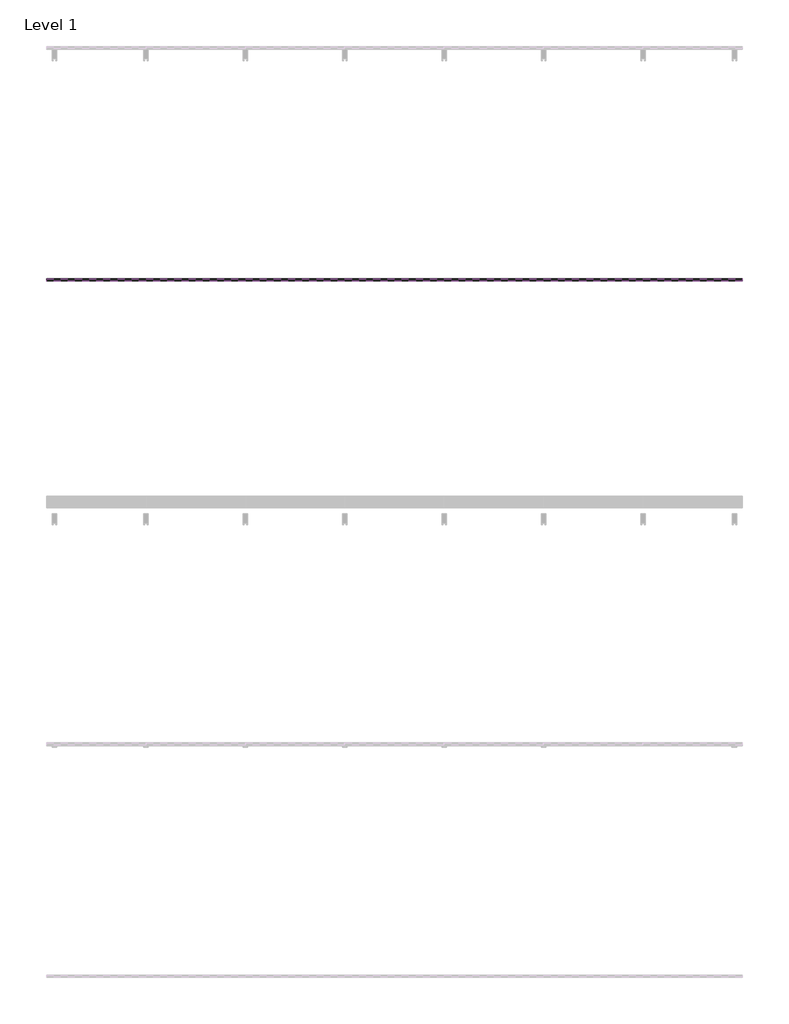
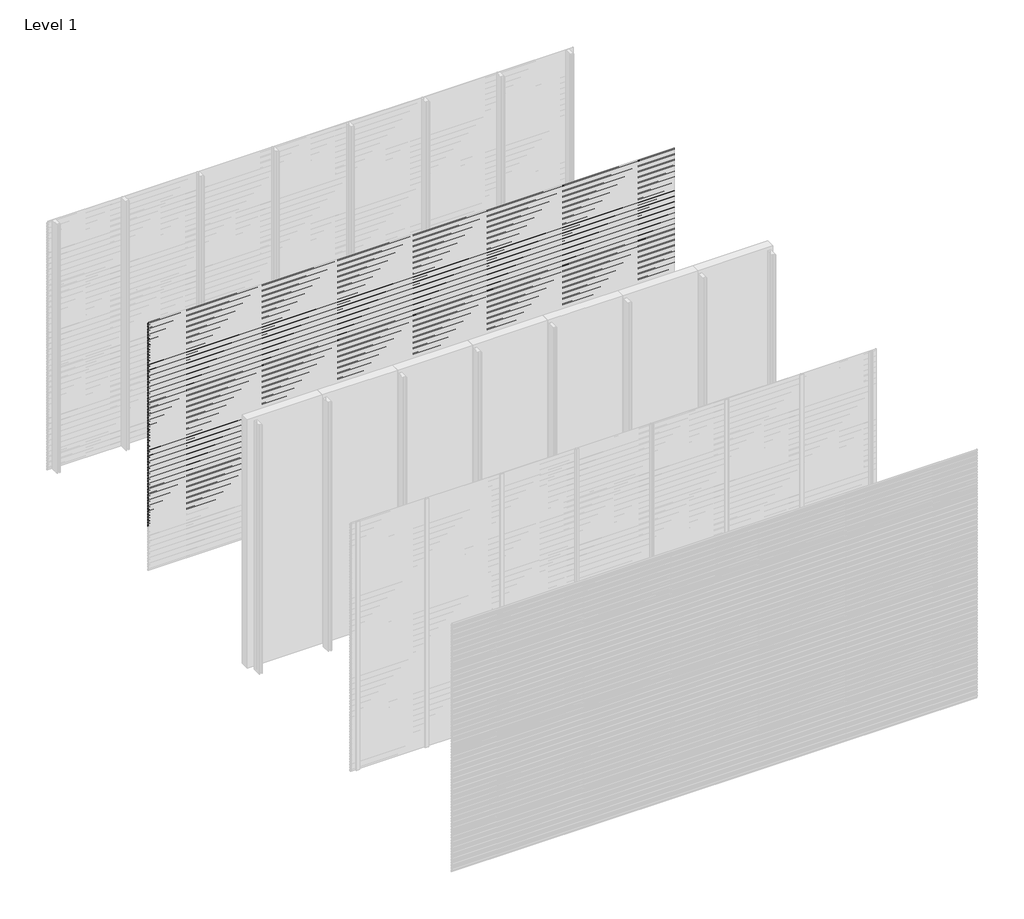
# One storey, part 60 of 96: 77 proxies.
"""IFC4 building model written with IfcOpenShell, lengths in millimetres."""

from ifc_helpers import new_model, si_unit, frame, origin, place, context, project, spatial, polyline, outline, extrude, element, save

model = new_model("IFC4")

# Units and contexts
model_context = context("Model", 3, world=origin())
ifc_project = project(units=[si_unit("LENGTHUNIT", "METRE", prefix="MILLI")], contexts=[model_context])

# Site, building, storey
site = spatial("IfcSite", under=ifc_project)
building = spatial("IfcBuilding", under=site)
storey = spatial("IfcBuildingStorey", under=building, Name="Level 1", Elevation=0.0)

# Proxies
placement = place(None, origin())
element("IfcBuildingElementProxy", 1, Name="Wall Sweeps", at=placement, inside=storey, context=model_context, shape_type="SweptSolid", body=[
    extrude(outline(polyline([(-19977.6, 2971.7655033), (-19977.6, 2957.4779188), (-19982.4114965, 2954.7), (-19982.4114965, 2955.9701706), (-19978.85, 2958.0264016), (-19978.85, 2971.0437382), (-19998.0, 2982.1000799), (-19998.0, 2997.0), (-19996.75, 2997.0), (-19996.75, 2982.8217609), (-19977.6, 2971.7655033)])), frame((0.0, 0.0, 0.0), z_axis=(1.0, 0.0, 0.0), x_axis=(0.0, 1.0, 0.0)), (0.0, 0.0, 1.0), 6000.0),
])
element("IfcBuildingElementProxy", 2, Name="Wall Sweeps", at=placement, inside=storey, context=model_context, shape_type="SweptSolid", body=[
    extrude(outline(polyline([(-19977.6, 2938.4655033), (-19977.6, 2924.1779188), (-19982.4114965, 2921.4), (-19982.4114965, 2922.6701706), (-19978.85, 2924.7264016), (-19978.85, 2937.7437382), (-19998.0, 2948.8000799), (-19998.0, 2963.7), (-19996.75, 2963.7), (-19996.75, 2949.5217609), (-19977.6, 2938.4655033)])), frame((0.0, 0.0, 0.0), z_axis=(1.0, 0.0, 0.0), x_axis=(0.0, 1.0, 0.0)), (0.0, 0.0, 1.0), 6000.0),
])
element("IfcBuildingElementProxy", 3, Name="Wall Sweeps", at=placement, inside=storey, context=model_context, shape_type="SweptSolid", body=[
    extrude(outline(polyline([(-19977.6, 2905.1655033), (-19977.6, 2890.8779188), (-19982.4114965, 2888.1), (-19982.4114965, 2889.3701706), (-19978.85, 2891.4264016), (-19978.85, 2904.4437382), (-19998.0, 2915.5000799), (-19998.0, 2930.4), (-19996.75, 2930.4), (-19996.75, 2916.2217609), (-19977.6, 2905.1655033)])), frame((0.0, 0.0, 0.0), z_axis=(1.0, 0.0, 0.0), x_axis=(0.0, 1.0, 0.0)), (0.0, 0.0, 1.0), 6000.0),
])
element("IfcBuildingElementProxy", 4, Name="Wall Sweeps", at=placement, inside=storey, context=model_context, shape_type="SweptSolid", body=[
    extrude(outline(polyline([(-19977.6, 2871.8655033), (-19977.6, 2857.5779188), (-19982.4114965, 2854.8), (-19982.4114965, 2856.0701706), (-19978.85, 2858.1264016), (-19978.85, 2871.1437382), (-19998.0, 2882.2000799), (-19998.0, 2897.1), (-19996.75, 2897.1), (-19996.75, 2882.9217609), (-19977.6, 2871.8655033)])), frame((0.0, 0.0, 0.0), z_axis=(1.0, 0.0, 0.0), x_axis=(0.0, 1.0, 0.0)), (0.0, 0.0, 1.0), 6000.0),
])
element("IfcBuildingElementProxy", 5, Name="Wall Sweeps", at=placement, inside=storey, context=model_context, shape_type="SweptSolid", body=[
    extrude(outline(polyline([(-19977.6, 2838.5655033), (-19977.6, 2824.2779188), (-19982.4114965, 2821.5), (-19982.4114965, 2822.7701706), (-19978.85, 2824.8264016), (-19978.85, 2837.8437382), (-19998.0, 2848.9000799), (-19998.0, 2863.8), (-19996.75, 2863.8), (-19996.75, 2849.6217609), (-19977.6, 2838.5655033)])), frame((0.0, 0.0, 0.0), z_axis=(1.0, 0.0, 0.0), x_axis=(0.0, 1.0, 0.0)), (0.0, 0.0, 1.0), 6000.0),
])
element("IfcBuildingElementProxy", 6, Name="Wall Sweeps", at=placement, inside=storey, context=model_context, shape_type="SweptSolid", body=[
    extrude(outline(polyline([(-19977.6, 2805.2655033), (-19977.6, 2790.9779188), (-19982.4114965, 2788.2), (-19982.4114965, 2789.4701706), (-19978.85, 2791.5264016), (-19978.85, 2804.5437382), (-19998.0, 2815.6000799), (-19998.0, 2830.5), (-19996.75, 2830.5), (-19996.75, 2816.3217609), (-19977.6, 2805.2655033)])), frame((0.0, 0.0, 0.0), z_axis=(1.0, 0.0, 0.0), x_axis=(0.0, 1.0, 0.0)), (0.0, 0.0, 1.0), 6000.0),
])
element("IfcBuildingElementProxy", 7, Name="Wall Sweeps", at=placement, inside=storey, context=model_context, shape_type="SweptSolid", body=[
    extrude(outline(polyline([(-19977.6, 2771.9655033), (-19977.6, 2757.6779188), (-19982.4114965, 2754.9), (-19982.4114965, 2756.1701706), (-19978.85, 2758.2264016), (-19978.85, 2771.2437382), (-19998.0, 2782.3000799), (-19998.0, 2797.2), (-19996.75, 2797.2), (-19996.75, 2783.0217609), (-19977.6, 2771.9655033)])), frame((0.0, 0.0, 0.0), z_axis=(1.0, 0.0, 0.0), x_axis=(0.0, 1.0, 0.0)), (0.0, 0.0, 1.0), 6000.0),
])
element("IfcBuildingElementProxy", 8, Name="Wall Sweeps", at=placement, inside=storey, context=model_context, shape_type="SweptSolid", body=[
    extrude(outline(polyline([(-19977.6, 2738.6655033), (-19977.6, 2724.3779188), (-19982.4114965, 2721.6), (-19982.4114965, 2722.8701706), (-19978.85, 2724.9264016), (-19978.85, 2737.9437382), (-19998.0, 2749.0000799), (-19998.0, 2763.9), (-19996.75, 2763.9), (-19996.75, 2749.7217609), (-19977.6, 2738.6655033)])), frame((0.0, 0.0, 0.0), z_axis=(1.0, 0.0, 0.0), x_axis=(0.0, 1.0, 0.0)), (0.0, 0.0, 1.0), 6000.0),
])
element("IfcBuildingElementProxy", 9, Name="Wall Sweeps", at=placement, inside=storey, context=model_context, shape_type="SweptSolid", body=[
    extrude(outline(polyline([(-19977.6, 2705.3655033), (-19977.6, 2691.0779188), (-19982.4114965, 2688.3), (-19982.4114965, 2689.5701706), (-19978.85, 2691.6264016), (-19978.85, 2704.6437382), (-19998.0, 2715.7000799), (-19998.0, 2730.6), (-19996.75, 2730.6), (-19996.75, 2716.4217609), (-19977.6, 2705.3655033)])), frame((0.0, 0.0, 0.0), z_axis=(1.0, 0.0, 0.0), x_axis=(0.0, 1.0, 0.0)), (0.0, 0.0, 1.0), 6000.0),
])
element("IfcBuildingElementProxy", 10, Name="Wall Sweeps", at=placement, inside=storey, context=model_context, shape_type="SweptSolid", body=[
    extrude(outline(polyline([(-19977.6, 2672.0655033), (-19977.6, 2657.7779188), (-19982.4114965, 2655.0), (-19982.4114965, 2656.2701706), (-19978.85, 2658.3264016), (-19978.85, 2671.3437382), (-19998.0, 2682.4000799), (-19998.0, 2697.3), (-19996.75, 2697.3), (-19996.75, 2683.1217609), (-19977.6, 2672.0655033)])), frame((0.0, 0.0, 0.0), z_axis=(1.0, 0.0, 0.0), x_axis=(0.0, 1.0, 0.0)), (0.0, 0.0, 1.0), 6000.0),
])
element("IfcBuildingElementProxy", 11, Name="Wall Sweeps", at=placement, inside=storey, context=model_context, shape_type="SweptSolid", body=[
    extrude(outline(polyline([(-19977.6, 2638.7655033), (-19977.6, 2624.4779188), (-19982.4114965, 2621.7), (-19982.4114965, 2622.9701706), (-19978.85, 2625.0264016), (-19978.85, 2638.0437382), (-19998.0, 2649.1000799), (-19998.0, 2664.0), (-19996.75, 2664.0), (-19996.75, 2649.8217609), (-19977.6, 2638.7655033)])), frame((0.0, 0.0, 0.0), z_axis=(1.0, 0.0, 0.0), x_axis=(0.0, 1.0, 0.0)), (0.0, 0.0, 1.0), 6000.0),
])
element("IfcBuildingElementProxy", 12, Name="Wall Sweeps", at=placement, inside=storey, context=model_context, shape_type="SweptSolid", body=[
    extrude(outline(polyline([(-19977.6, 2605.4655033), (-19977.6, 2591.1779188), (-19982.4114965, 2588.4), (-19982.4114965, 2589.6701706), (-19978.85, 2591.7264016), (-19978.85, 2604.7437382), (-19998.0, 2615.8000799), (-19998.0, 2630.7), (-19996.75, 2630.7), (-19996.75, 2616.5217609), (-19977.6, 2605.4655033)])), frame((0.0, 0.0, 0.0), z_axis=(1.0, 0.0, 0.0), x_axis=(0.0, 1.0, 0.0)), (0.0, 0.0, 1.0), 6000.0),
])
element("IfcBuildingElementProxy", 13, Name="Wall Sweeps", at=placement, inside=storey, context=model_context, shape_type="SweptSolid", body=[
    extrude(outline(polyline([(-19977.6, 2572.1655033), (-19977.6, 2557.8779188), (-19982.4114965, 2555.1), (-19982.4114965, 2556.3701706), (-19978.85, 2558.4264016), (-19978.85, 2571.4437382), (-19998.0, 2582.5000799), (-19998.0, 2597.4), (-19996.75, 2597.4), (-19996.75, 2583.2217609), (-19977.6, 2572.1655033)])), frame((0.0, 0.0, 0.0), z_axis=(1.0, 0.0, 0.0), x_axis=(0.0, 1.0, 0.0)), (0.0, 0.0, 1.0), 6000.0),
])
element("IfcBuildingElementProxy", 14, Name="Wall Sweeps", at=placement, inside=storey, context=model_context, shape_type="SweptSolid", body=[
    extrude(outline(polyline([(-19977.6, 2538.8655033), (-19977.6, 2524.5779188), (-19982.4114965, 2521.8), (-19982.4114965, 2523.0701706), (-19978.85, 2525.1264016), (-19978.85, 2538.1437382), (-19998.0, 2549.2000799), (-19998.0, 2564.1), (-19996.75, 2564.1), (-19996.75, 2549.9217609), (-19977.6, 2538.8655033)])), frame((0.0, 0.0, 0.0), z_axis=(1.0, 0.0, 0.0), x_axis=(0.0, 1.0, 0.0)), (0.0, 0.0, 1.0), 6000.0),
])
element("IfcBuildingElementProxy", 15, Name="Wall Sweeps", at=placement, inside=storey, context=model_context, shape_type="SweptSolid", body=[
    extrude(outline(polyline([(-19977.6, 2505.5655033), (-19977.6, 2491.2779188), (-19982.4114965, 2488.5), (-19982.4114965, 2489.7701706), (-19978.85, 2491.8264016), (-19978.85, 2504.8437382), (-19998.0, 2515.9000799), (-19998.0, 2530.8), (-19996.75, 2530.8), (-19996.75, 2516.6217609), (-19977.6, 2505.5655033)])), frame((0.0, 0.0, 0.0), z_axis=(1.0, 0.0, 0.0), x_axis=(0.0, 1.0, 0.0)), (0.0, 0.0, 1.0), 6000.0),
])
element("IfcBuildingElementProxy", 16, Name="Wall Sweeps", at=placement, inside=storey, context=model_context, shape_type="SweptSolid", body=[
    extrude(outline(polyline([(-19977.6, 2472.2655033), (-19977.6, 2457.9779188), (-19982.4114965, 2455.2), (-19982.4114965, 2456.4701706), (-19978.85, 2458.5264016), (-19978.85, 2471.5437382), (-19998.0, 2482.6000799), (-19998.0, 2497.5), (-19996.75, 2497.5), (-19996.75, 2483.3217609), (-19977.6, 2472.2655033)])), frame((0.0, 0.0, 0.0), z_axis=(1.0, 0.0, 0.0), x_axis=(0.0, 1.0, 0.0)), (0.0, 0.0, 1.0), 6000.0),
])
element("IfcBuildingElementProxy", 17, Name="Wall Sweeps", at=placement, inside=storey, context=model_context, shape_type="SweptSolid", body=[
    extrude(outline(polyline([(-19977.6, 2438.9655033), (-19977.6, 2424.6779188), (-19982.4114965, 2421.9), (-19982.4114965, 2423.1701706), (-19978.85, 2425.2264016), (-19978.85, 2438.2437382), (-19998.0, 2449.3000799), (-19998.0, 2464.2), (-19996.75, 2464.2), (-19996.75, 2450.0217609), (-19977.6, 2438.9655033)])), frame((0.0, 0.0, 0.0), z_axis=(1.0, 0.0, 0.0), x_axis=(0.0, 1.0, 0.0)), (0.0, 0.0, 1.0), 6000.0),
])
element("IfcBuildingElementProxy", 18, Name="Wall Sweeps", at=placement, inside=storey, context=model_context, shape_type="SweptSolid", body=[
    extrude(outline(polyline([(-19977.6, 2405.6655033), (-19977.6, 2391.3779188), (-19982.4114965, 2388.6), (-19982.4114965, 2389.8701706), (-19978.85, 2391.9264016), (-19978.85, 2404.9437382), (-19998.0, 2416.0000799), (-19998.0, 2430.9), (-19996.75, 2430.9), (-19996.75, 2416.7217609), (-19977.6, 2405.6655033)])), frame((0.0, 0.0, 0.0), z_axis=(1.0, 0.0, 0.0), x_axis=(0.0, 1.0, 0.0)), (0.0, 0.0, 1.0), 6000.0),
])
element("IfcBuildingElementProxy", 19, Name="Wall Sweeps", at=placement, inside=storey, context=model_context, shape_type="SweptSolid", body=[
    extrude(outline(polyline([(-19977.6, 2372.3655033), (-19977.6, 2358.0779188), (-19982.4114965, 2355.3), (-19982.4114965, 2356.5701706), (-19978.85, 2358.6264016), (-19978.85, 2371.6437382), (-19998.0, 2382.7000799), (-19998.0, 2397.6), (-19996.75, 2397.6), (-19996.75, 2383.4217609), (-19977.6, 2372.3655033)])), frame((0.0, 0.0, 0.0), z_axis=(1.0, 0.0, 0.0), x_axis=(0.0, 1.0, 0.0)), (0.0, 0.0, 1.0), 6000.0),
])
element("IfcBuildingElementProxy", 20, Name="Wall Sweeps", at=placement, inside=storey, context=model_context, shape_type="SweptSolid", body=[
    extrude(outline(polyline([(-19977.6, 2339.0655033), (-19977.6, 2324.7779188), (-19982.4114965, 2322.0), (-19982.4114965, 2323.2701706), (-19978.85, 2325.3264016), (-19978.85, 2338.3437382), (-19998.0, 2349.4000799), (-19998.0, 2364.3), (-19996.75, 2364.3), (-19996.75, 2350.1217609), (-19977.6, 2339.0655033)])), frame((0.0, 0.0, 0.0), z_axis=(1.0, 0.0, 0.0), x_axis=(0.0, 1.0, 0.0)), (0.0, 0.0, 1.0), 6000.0),
])
element("IfcBuildingElementProxy", 21, Name="Wall Sweeps", at=placement, inside=storey, context=model_context, shape_type="SweptSolid", body=[
    extrude(outline(polyline([(-19977.6, 2305.7655033), (-19977.6, 2291.4779188), (-19982.4114965, 2288.7), (-19982.4114965, 2289.9701706), (-19978.85, 2292.0264016), (-19978.85, 2305.0437382), (-19998.0, 2316.1000799), (-19998.0, 2331.0), (-19996.75, 2331.0), (-19996.75, 2316.8217609), (-19977.6, 2305.7655033)])), frame((0.0, 0.0, 0.0), z_axis=(1.0, 0.0, 0.0), x_axis=(0.0, 1.0, 0.0)), (0.0, 0.0, 1.0), 6000.0),
])
element("IfcBuildingElementProxy", 22, Name="Wall Sweeps", at=placement, inside=storey, context=model_context, shape_type="SweptSolid", body=[
    extrude(outline(polyline([(-19977.6, 2272.4655033), (-19977.6, 2258.1779188), (-19982.4114965, 2255.4), (-19982.4114965, 2256.6701706), (-19978.85, 2258.7264016), (-19978.85, 2271.7437382), (-19998.0, 2282.8000799), (-19998.0, 2297.7), (-19996.75, 2297.7), (-19996.75, 2283.5217609), (-19977.6, 2272.4655033)])), frame((0.0, 0.0, 0.0), z_axis=(1.0, 0.0, 0.0), x_axis=(0.0, 1.0, 0.0)), (0.0, 0.0, 1.0), 6000.0),
])
element("IfcBuildingElementProxy", 23, Name="Wall Sweeps", at=placement, inside=storey, context=model_context, shape_type="SweptSolid", body=[
    extrude(outline(polyline([(-19977.6, 2239.1655033), (-19977.6, 2224.8779188), (-19982.4114965, 2222.1), (-19982.4114965, 2223.3701706), (-19978.85, 2225.4264016), (-19978.85, 2238.4437382), (-19998.0, 2249.5000799), (-19998.0, 2264.4), (-19996.75, 2264.4), (-19996.75, 2250.2217609), (-19977.6, 2239.1655033)])), frame((0.0, 0.0, 0.0), z_axis=(1.0, 0.0, 0.0), x_axis=(0.0, 1.0, 0.0)), (0.0, 0.0, 1.0), 6000.0),
])
element("IfcBuildingElementProxy", 24, Name="Wall Sweeps", at=placement, inside=storey, context=model_context, shape_type="SweptSolid", body=[
    extrude(outline(polyline([(-19977.6, 2205.8655033), (-19977.6, 2191.5779188), (-19982.4114965, 2188.8), (-19982.4114965, 2190.0701706), (-19978.85, 2192.1264016), (-19978.85, 2205.1437382), (-19998.0, 2216.2000799), (-19998.0, 2231.1), (-19996.75, 2231.1), (-19996.75, 2216.9217609), (-19977.6, 2205.8655033)])), frame((0.0, 0.0, 0.0), z_axis=(1.0, 0.0, 0.0), x_axis=(0.0, 1.0, 0.0)), (0.0, 0.0, 1.0), 6000.0),
])
element("IfcBuildingElementProxy", 25, Name="Wall Sweeps", at=placement, inside=storey, context=model_context, shape_type="SweptSolid", body=[
    extrude(outline(polyline([(-19977.6, 2172.5655033), (-19977.6, 2158.2779188), (-19982.4114965, 2155.5), (-19982.4114965, 2156.7701706), (-19978.85, 2158.8264016), (-19978.85, 2171.8437382), (-19998.0, 2182.9000799), (-19998.0, 2197.8), (-19996.75, 2197.8), (-19996.75, 2183.6217609), (-19977.6, 2172.5655033)])), frame((0.0, 0.0, 0.0), z_axis=(1.0, 0.0, 0.0), x_axis=(0.0, 1.0, 0.0)), (0.0, 0.0, 1.0), 6000.0),
])
element("IfcBuildingElementProxy", 26, Name="Wall Sweeps", at=placement, inside=storey, context=model_context, shape_type="SweptSolid", body=[
    extrude(outline(polyline([(-19977.6, 2139.2655033), (-19977.6, 2124.9779188), (-19982.4114965, 2122.2), (-19982.4114965, 2123.4701706), (-19978.85, 2125.5264016), (-19978.85, 2138.5437382), (-19998.0, 2149.6000799), (-19998.0, 2164.5), (-19996.75, 2164.5), (-19996.75, 2150.3217609), (-19977.6, 2139.2655033)])), frame((0.0, 0.0, 0.0), z_axis=(1.0, 0.0, 0.0), x_axis=(0.0, 1.0, 0.0)), (0.0, 0.0, 1.0), 6000.0),
])
element("IfcBuildingElementProxy", 27, Name="Wall Sweeps", at=placement, inside=storey, context=model_context, shape_type="SweptSolid", body=[
    extrude(outline(polyline([(-19977.6, 2105.9655033), (-19977.6, 2091.6779188), (-19982.4114965, 2088.9), (-19982.4114965, 2090.1701706), (-19978.85, 2092.2264016), (-19978.85, 2105.2437382), (-19998.0, 2116.3000799), (-19998.0, 2131.2), (-19996.75, 2131.2), (-19996.75, 2117.0217609), (-19977.6, 2105.9655033)])), frame((0.0, 0.0, 0.0), z_axis=(1.0, 0.0, 0.0), x_axis=(0.0, 1.0, 0.0)), (0.0, 0.0, 1.0), 6000.0),
])
element("IfcBuildingElementProxy", 28, Name="Wall Sweeps", at=placement, inside=storey, context=model_context, shape_type="SweptSolid", body=[
    extrude(outline(polyline([(-19977.6, 2072.6655033), (-19977.6, 2058.3779188), (-19982.4114965, 2055.6), (-19982.4114965, 2056.8701706), (-19978.85, 2058.9264016), (-19978.85, 2071.9437382), (-19998.0, 2083.0000799), (-19998.0, 2097.9), (-19996.75, 2097.9), (-19996.75, 2083.7217609), (-19977.6, 2072.6655033)])), frame((0.0, 0.0, 0.0), z_axis=(1.0, 0.0, 0.0), x_axis=(0.0, 1.0, 0.0)), (0.0, 0.0, 1.0), 6000.0),
])
element("IfcBuildingElementProxy", 29, Name="Wall Sweeps", at=placement, inside=storey, context=model_context, shape_type="SweptSolid", body=[
    extrude(outline(polyline([(-19977.6, 2039.3655033), (-19977.6, 2025.0779188), (-19982.4114965, 2022.3), (-19982.4114965, 2023.5701706), (-19978.85, 2025.6264016), (-19978.85, 2038.6437382), (-19998.0, 2049.7000799), (-19998.0, 2064.6), (-19996.75, 2064.6), (-19996.75, 2050.4217609), (-19977.6, 2039.3655033)])), frame((0.0, 0.0, 0.0), z_axis=(1.0, 0.0, 0.0), x_axis=(0.0, 1.0, 0.0)), (0.0, 0.0, 1.0), 6000.0),
])
element("IfcBuildingElementProxy", 30, Name="Wall Sweeps", at=placement, inside=storey, context=model_context, shape_type="SweptSolid", body=[
    extrude(outline(polyline([(-19977.6, 2006.0655033), (-19977.6, 1991.7779188), (-19982.4114965, 1989.0), (-19982.4114965, 1990.2701706), (-19978.85, 1992.3264016), (-19978.85, 2005.3437382), (-19998.0, 2016.4000799), (-19998.0, 2031.3), (-19996.75, 2031.3), (-19996.75, 2017.1217609), (-19977.6, 2006.0655033)])), frame((0.0, 0.0, 0.0), z_axis=(1.0, 0.0, 0.0), x_axis=(0.0, 1.0, 0.0)), (0.0, 0.0, 1.0), 6000.0),
])
element("IfcBuildingElementProxy", 31, Name="Wall Sweeps", at=placement, inside=storey, context=model_context, shape_type="SweptSolid", body=[
    extrude(outline(polyline([(-19977.6, 1972.7655033), (-19977.6, 1958.4779188), (-19982.4114965, 1955.7), (-19982.4114965, 1956.9701706), (-19978.85, 1959.0264016), (-19978.85, 1972.0437382), (-19998.0, 1983.1000799), (-19998.0, 1998.0), (-19996.75, 1998.0), (-19996.75, 1983.8217609), (-19977.6, 1972.7655033)])), frame((0.0, 0.0, 0.0), z_axis=(1.0, 0.0, 0.0), x_axis=(0.0, 1.0, 0.0)), (0.0, 0.0, 1.0), 6000.0),
])
element("IfcBuildingElementProxy", 32, Name="Wall Sweeps", at=placement, inside=storey, context=model_context, shape_type="SweptSolid", body=[
    extrude(outline(polyline([(-19977.6, 1939.4655033), (-19977.6, 1925.1779188), (-19982.4114965, 1922.4), (-19982.4114965, 1923.6701706), (-19978.85, 1925.7264016), (-19978.85, 1938.7437382), (-19998.0, 1949.8000799), (-19998.0, 1964.7), (-19996.75, 1964.7), (-19996.75, 1950.5217609), (-19977.6, 1939.4655033)])), frame((0.0, 0.0, 0.0), z_axis=(1.0, 0.0, 0.0), x_axis=(0.0, 1.0, 0.0)), (0.0, 0.0, 1.0), 6000.0),
])
element("IfcBuildingElementProxy", 33, Name="Wall Sweeps", at=placement, inside=storey, context=model_context, shape_type="SweptSolid", body=[
    extrude(outline(polyline([(-19977.6, 1906.1655033), (-19977.6, 1891.8779188), (-19982.4114965, 1889.1), (-19982.4114965, 1890.3701706), (-19978.85, 1892.4264016), (-19978.85, 1905.4437382), (-19998.0, 1916.5000799), (-19998.0, 1931.4), (-19996.75, 1931.4), (-19996.75, 1917.2217609), (-19977.6, 1906.1655033)])), frame((0.0, 0.0, 0.0), z_axis=(1.0, 0.0, 0.0), x_axis=(0.0, 1.0, 0.0)), (0.0, 0.0, 1.0), 6000.0),
])
element("IfcBuildingElementProxy", 34, Name="Wall Sweeps", at=placement, inside=storey, context=model_context, shape_type="SweptSolid", body=[
    extrude(outline(polyline([(-19977.6, 1872.8655033), (-19977.6, 1858.5779188), (-19982.4114965, 1855.8), (-19982.4114965, 1857.0701706), (-19978.85, 1859.1264016), (-19978.85, 1872.1437382), (-19998.0, 1883.2000799), (-19998.0, 1898.1), (-19996.75, 1898.1), (-19996.75, 1883.9217609), (-19977.6, 1872.8655033)])), frame((0.0, 0.0, 0.0), z_axis=(1.0, 0.0, 0.0), x_axis=(0.0, 1.0, 0.0)), (0.0, 0.0, 1.0), 6000.0),
])
element("IfcBuildingElementProxy", 35, Name="Wall Sweeps", at=placement, inside=storey, context=model_context, shape_type="SweptSolid", body=[
    extrude(outline(polyline([(-19977.6, 1839.5655033), (-19977.6, 1825.2779188), (-19982.4114965, 1822.5), (-19982.4114965, 1823.7701706), (-19978.85, 1825.8264016), (-19978.85, 1838.8437382), (-19998.0, 1849.9000799), (-19998.0, 1864.8), (-19996.75, 1864.8), (-19996.75, 1850.6217609), (-19977.6, 1839.5655033)])), frame((0.0, 0.0, 0.0), z_axis=(1.0, 0.0, 0.0), x_axis=(0.0, 1.0, 0.0)), (0.0, 0.0, 1.0), 6000.0),
])
element("IfcBuildingElementProxy", 36, Name="Wall Sweeps", at=placement, inside=storey, context=model_context, shape_type="SweptSolid", body=[
    extrude(outline(polyline([(-19977.6, 1806.2655033), (-19977.6, 1791.9779188), (-19982.4114965, 1789.2), (-19982.4114965, 1790.4701706), (-19978.85, 1792.5264016), (-19978.85, 1805.5437382), (-19998.0, 1816.6000799), (-19998.0, 1831.5), (-19996.75, 1831.5), (-19996.75, 1817.3217609), (-19977.6, 1806.2655033)])), frame((0.0, 0.0, 0.0), z_axis=(1.0, 0.0, 0.0), x_axis=(0.0, 1.0, 0.0)), (0.0, 0.0, 1.0), 6000.0),
])
element("IfcBuildingElementProxy", 37, Name="Wall Sweeps", at=placement, inside=storey, context=model_context, shape_type="SweptSolid", body=[
    extrude(outline(polyline([(-19977.6, 1772.9655033), (-19977.6, 1758.6779188), (-19982.4114965, 1755.9), (-19982.4114965, 1757.1701706), (-19978.85, 1759.2264016), (-19978.85, 1772.2437382), (-19998.0, 1783.3000799), (-19998.0, 1798.2), (-19996.75, 1798.2), (-19996.75, 1784.0217609), (-19977.6, 1772.9655033)])), frame((0.0, 0.0, 0.0), z_axis=(1.0, 0.0, 0.0), x_axis=(0.0, 1.0, 0.0)), (0.0, 0.0, 1.0), 6000.0),
])
element("IfcBuildingElementProxy", 38, Name="Wall Sweeps", at=placement, inside=storey, context=model_context, shape_type="SweptSolid", body=[
    extrude(outline(polyline([(-19977.6, 1739.6655033), (-19977.6, 1725.3779188), (-19982.4114965, 1722.6), (-19982.4114965, 1723.8701706), (-19978.85, 1725.9264016), (-19978.85, 1738.9437382), (-19998.0, 1750.0000799), (-19998.0, 1764.9), (-19996.75, 1764.9), (-19996.75, 1750.7217609), (-19977.6, 1739.6655033)])), frame((0.0, 0.0, 0.0), z_axis=(1.0, 0.0, 0.0), x_axis=(0.0, 1.0, 0.0)), (0.0, 0.0, 1.0), 6000.0),
])
element("IfcBuildingElementProxy", 39, Name="Wall Sweeps", at=placement, inside=storey, context=model_context, shape_type="SweptSolid", body=[
    extrude(outline(polyline([(-19977.6, 1706.3655033), (-19977.6, 1692.0779188), (-19982.4114965, 1689.3), (-19982.4114965, 1690.5701706), (-19978.85, 1692.6264016), (-19978.85, 1705.6437382), (-19998.0, 1716.7000799), (-19998.0, 1731.6), (-19996.75, 1731.6), (-19996.75, 1717.4217609), (-19977.6, 1706.3655033)])), frame((0.0, 0.0, 0.0), z_axis=(1.0, 0.0, 0.0), x_axis=(0.0, 1.0, 0.0)), (0.0, 0.0, 1.0), 6000.0),
])
element("IfcBuildingElementProxy", 40, Name="Wall Sweeps", at=placement, inside=storey, context=model_context, shape_type="SweptSolid", body=[
    extrude(outline(polyline([(-19977.6, 1673.0655033), (-19977.6, 1658.7779188), (-19982.4114965, 1656.0), (-19982.4114965, 1657.2701706), (-19978.85, 1659.3264016), (-19978.85, 1672.3437382), (-19998.0, 1683.4000799), (-19998.0, 1698.3), (-19996.75, 1698.3), (-19996.75, 1684.1217609), (-19977.6, 1673.0655033)])), frame((0.0, 0.0, 0.0), z_axis=(1.0, 0.0, 0.0), x_axis=(0.0, 1.0, 0.0)), (0.0, 0.0, 1.0), 6000.0),
])
element("IfcBuildingElementProxy", 41, Name="Wall Sweeps", at=placement, inside=storey, context=model_context, shape_type="SweptSolid", body=[
    extrude(outline(polyline([(-19977.6, 1639.7655033), (-19977.6, 1625.4779188), (-19982.4114965, 1622.7), (-19982.4114965, 1623.9701706), (-19978.85, 1626.0264016), (-19978.85, 1639.0437382), (-19998.0, 1650.1000799), (-19998.0, 1665.0), (-19996.75, 1665.0), (-19996.75, 1650.8217609), (-19977.6, 1639.7655033)])), frame((0.0, 0.0, 0.0), z_axis=(1.0, 0.0, 0.0), x_axis=(0.0, 1.0, 0.0)), (0.0, 0.0, 1.0), 6000.0),
])
element("IfcBuildingElementProxy", 42, Name="Wall Sweeps", at=placement, inside=storey, context=model_context, shape_type="SweptSolid", body=[
    extrude(outline(polyline([(-19977.6, 1606.4655033), (-19977.6, 1592.1779188), (-19982.4114965, 1589.4), (-19982.4114965, 1590.6701706), (-19978.85, 1592.7264016), (-19978.85, 1605.7437382), (-19998.0, 1616.8000799), (-19998.0, 1631.7), (-19996.75, 1631.7), (-19996.75, 1617.5217609), (-19977.6, 1606.4655033)])), frame((0.0, 0.0, 0.0), z_axis=(1.0, 0.0, 0.0), x_axis=(0.0, 1.0, 0.0)), (0.0, 0.0, 1.0), 6000.0),
])
element("IfcBuildingElementProxy", 43, Name="Wall Sweeps", at=placement, inside=storey, context=model_context, shape_type="SweptSolid", body=[
    extrude(outline(polyline([(-19977.6, 1573.1655033), (-19977.6, 1558.8779188), (-19982.4114965, 1556.1), (-19982.4114965, 1557.3701706), (-19978.85, 1559.4264016), (-19978.85, 1572.4437382), (-19998.0, 1583.5000799), (-19998.0, 1598.4), (-19996.75, 1598.4), (-19996.75, 1584.2217609), (-19977.6, 1573.1655033)])), frame((0.0, 0.0, 0.0), z_axis=(1.0, 0.0, 0.0), x_axis=(0.0, 1.0, 0.0)), (0.0, 0.0, 1.0), 6000.0),
])
element("IfcBuildingElementProxy", 44, Name="Wall Sweeps", at=placement, inside=storey, context=model_context, shape_type="SweptSolid", body=[
    extrude(outline(polyline([(-19977.6, 1539.8655033), (-19977.6, 1525.5779188), (-19982.4114965, 1522.8), (-19982.4114965, 1524.0701706), (-19978.85, 1526.1264016), (-19978.85, 1539.1437382), (-19998.0, 1550.2000799), (-19998.0, 1565.1), (-19996.75, 1565.1), (-19996.75, 1550.9217609), (-19977.6, 1539.8655033)])), frame((0.0, 0.0, 0.0), z_axis=(1.0, 0.0, 0.0), x_axis=(0.0, 1.0, 0.0)), (0.0, 0.0, 1.0), 6000.0),
])
element("IfcBuildingElementProxy", 45, Name="Wall Sweeps", at=placement, inside=storey, context=model_context, shape_type="SweptSolid", body=[
    extrude(outline(polyline([(-19977.6, 1506.5655033), (-19977.6, 1492.2779188), (-19982.4114965, 1489.5), (-19982.4114965, 1490.7701706), (-19978.85, 1492.8264016), (-19978.85, 1505.8437382), (-19998.0, 1516.9000799), (-19998.0, 1531.8), (-19996.75, 1531.8), (-19996.75, 1517.6217609), (-19977.6, 1506.5655033)])), frame((0.0, 0.0, 0.0), z_axis=(1.0, 0.0, 0.0), x_axis=(0.0, 1.0, 0.0)), (0.0, 0.0, 1.0), 6000.0),
])
element("IfcBuildingElementProxy", 46, Name="Wall Sweeps", at=placement, inside=storey, context=model_context, shape_type="SweptSolid", body=[
    extrude(outline(polyline([(-19977.6, 1473.2655033), (-19977.6, 1458.9779188), (-19982.4114965, 1456.2), (-19982.4114965, 1457.4701706), (-19978.85, 1459.5264016), (-19978.85, 1472.5437382), (-19998.0, 1483.6000799), (-19998.0, 1498.5), (-19996.75, 1498.5), (-19996.75, 1484.3217609), (-19977.6, 1473.2655033)])), frame((0.0, 0.0, 0.0), z_axis=(1.0, 0.0, 0.0), x_axis=(0.0, 1.0, 0.0)), (0.0, 0.0, 1.0), 6000.0),
])
element("IfcBuildingElementProxy", 47, Name="Wall Sweeps", at=placement, inside=storey, context=model_context, shape_type="SweptSolid", body=[
    extrude(outline(polyline([(-19977.6, 1439.9655033), (-19977.6, 1425.6779188), (-19982.4114965, 1422.9), (-19982.4114965, 1424.1701706), (-19978.85, 1426.2264016), (-19978.85, 1439.2437382), (-19998.0, 1450.3000799), (-19998.0, 1465.2), (-19996.75, 1465.2), (-19996.75, 1451.0217609), (-19977.6, 1439.9655033)])), frame((0.0, 0.0, 0.0), z_axis=(1.0, 0.0, 0.0), x_axis=(0.0, 1.0, 0.0)), (0.0, 0.0, 1.0), 6000.0),
])
element("IfcBuildingElementProxy", 48, Name="Wall Sweeps", at=placement, inside=storey, context=model_context, shape_type="SweptSolid", body=[
    extrude(outline(polyline([(-19977.6, 1406.6655033), (-19977.6, 1392.3779188), (-19982.4114965, 1389.6), (-19982.4114965, 1390.8701706), (-19978.85, 1392.9264016), (-19978.85, 1405.9437382), (-19998.0, 1417.0000799), (-19998.0, 1431.9), (-19996.75, 1431.9), (-19996.75, 1417.7217609), (-19977.6, 1406.6655033)])), frame((0.0, 0.0, 0.0), z_axis=(1.0, 0.0, 0.0), x_axis=(0.0, 1.0, 0.0)), (0.0, 0.0, 1.0), 6000.0),
])
element("IfcBuildingElementProxy", 49, Name="Wall Sweeps", at=placement, inside=storey, context=model_context, shape_type="SweptSolid", body=[
    extrude(outline(polyline([(-19977.6, 1373.3655033), (-19977.6, 1359.0779188), (-19982.4114965, 1356.3), (-19982.4114965, 1357.5701706), (-19978.85, 1359.6264016), (-19978.85, 1372.6437382), (-19998.0, 1383.7000799), (-19998.0, 1398.6), (-19996.75, 1398.6), (-19996.75, 1384.4217609), (-19977.6, 1373.3655033)])), frame((0.0, 0.0, 0.0), z_axis=(1.0, 0.0, 0.0), x_axis=(0.0, 1.0, 0.0)), (0.0, 0.0, 1.0), 6000.0),
])
element("IfcBuildingElementProxy", 50, Name="Wall Sweeps", at=placement, inside=storey, context=model_context, shape_type="SweptSolid", body=[
    extrude(outline(polyline([(-19977.6, 1340.0655033), (-19977.6, 1325.7779188), (-19982.4114965, 1323.0), (-19982.4114965, 1324.2701706), (-19978.85, 1326.3264016), (-19978.85, 1339.3437382), (-19998.0, 1350.4000799), (-19998.0, 1365.3), (-19996.75, 1365.3), (-19996.75, 1351.1217609), (-19977.6, 1340.0655033)])), frame((0.0, 0.0, 0.0), z_axis=(1.0, 0.0, 0.0), x_axis=(0.0, 1.0, 0.0)), (0.0, 0.0, 1.0), 6000.0),
])
element("IfcBuildingElementProxy", 51, Name="Wall Sweeps", at=placement, inside=storey, context=model_context, shape_type="SweptSolid", body=[
    extrude(outline(polyline([(-19977.6, 1306.7655033), (-19977.6, 1292.4779188), (-19982.4114965, 1289.7), (-19982.4114965, 1290.9701706), (-19978.85, 1293.0264016), (-19978.85, 1306.0437382), (-19998.0, 1317.1000799), (-19998.0, 1332.0), (-19996.75, 1332.0), (-19996.75, 1317.8217609), (-19977.6, 1306.7655033)])), frame((0.0, 0.0, 0.0), z_axis=(1.0, 0.0, 0.0), x_axis=(0.0, 1.0, 0.0)), (0.0, 0.0, 1.0), 6000.0),
])
element("IfcBuildingElementProxy", 52, Name="Wall Sweeps", at=placement, inside=storey, context=model_context, shape_type="SweptSolid", body=[
    extrude(outline(polyline([(-19977.6, 1273.4655033), (-19977.6, 1259.1779188), (-19982.4114965, 1256.4), (-19982.4114965, 1257.6701706), (-19978.85, 1259.7264016), (-19978.85, 1272.7437382), (-19998.0, 1283.8000799), (-19998.0, 1298.7), (-19996.75, 1298.7), (-19996.75, 1284.5217609), (-19977.6, 1273.4655033)])), frame((0.0, 0.0, 0.0), z_axis=(1.0, 0.0, 0.0), x_axis=(0.0, 1.0, 0.0)), (0.0, 0.0, 1.0), 6000.0),
])
element("IfcBuildingElementProxy", 53, Name="Wall Sweeps", at=placement, inside=storey, context=model_context, shape_type="SweptSolid", body=[
    extrude(outline(polyline([(-19977.6, 1240.1655033), (-19977.6, 1225.8779188), (-19982.4114965, 1223.1), (-19982.4114965, 1224.3701706), (-19978.85, 1226.4264016), (-19978.85, 1239.4437382), (-19998.0, 1250.5000799), (-19998.0, 1265.4), (-19996.75, 1265.4), (-19996.75, 1251.2217609), (-19977.6, 1240.1655033)])), frame((0.0, 0.0, 0.0), z_axis=(1.0, 0.0, 0.0), x_axis=(0.0, 1.0, 0.0)), (0.0, 0.0, 1.0), 6000.0),
])
element("IfcBuildingElementProxy", 54, Name="Wall Sweeps", at=placement, inside=storey, context=model_context, shape_type="SweptSolid", body=[
    extrude(outline(polyline([(-19977.6, 1206.8655033), (-19977.6, 1192.5779188), (-19982.4114965, 1189.8), (-19982.4114965, 1191.0701706), (-19978.85, 1193.1264016), (-19978.85, 1206.1437382), (-19998.0, 1217.2000799), (-19998.0, 1232.1), (-19996.75, 1232.1), (-19996.75, 1217.9217609), (-19977.6, 1206.8655033)])), frame((0.0, 0.0, 0.0), z_axis=(1.0, 0.0, 0.0), x_axis=(0.0, 1.0, 0.0)), (0.0, 0.0, 1.0), 6000.0),
])
element("IfcBuildingElementProxy", 55, Name="Wall Sweeps", at=placement, inside=storey, context=model_context, shape_type="SweptSolid", body=[
    extrude(outline(polyline([(-19977.6, 1173.5655033), (-19977.6, 1159.2779188), (-19982.4114965, 1156.5), (-19982.4114965, 1157.7701706), (-19978.85, 1159.8264016), (-19978.85, 1172.8437382), (-19998.0, 1183.9000799), (-19998.0, 1198.8), (-19996.75, 1198.8), (-19996.75, 1184.6217609), (-19977.6, 1173.5655033)])), frame((0.0, 0.0, 0.0), z_axis=(1.0, 0.0, 0.0), x_axis=(0.0, 1.0, 0.0)), (0.0, 0.0, 1.0), 6000.0),
])
element("IfcBuildingElementProxy", 56, Name="Wall Sweeps", at=placement, inside=storey, context=model_context, shape_type="SweptSolid", body=[
    extrude(outline(polyline([(-19977.6, 1140.2655033), (-19977.6, 1125.9779188), (-19982.4114965, 1123.2), (-19982.4114965, 1124.4701706), (-19978.85, 1126.5264016), (-19978.85, 1139.5437382), (-19998.0, 1150.6000799), (-19998.0, 1165.5), (-19996.75, 1165.5), (-19996.75, 1151.3217609), (-19977.6, 1140.2655033)])), frame((0.0, 0.0, 0.0), z_axis=(1.0, 0.0, 0.0), x_axis=(0.0, 1.0, 0.0)), (0.0, 0.0, 1.0), 6000.0),
])
element("IfcBuildingElementProxy", 57, Name="Wall Sweeps", at=placement, inside=storey, context=model_context, shape_type="SweptSolid", body=[
    extrude(outline(polyline([(-19977.6, 1106.9655033), (-19977.6, 1092.6779188), (-19982.4114965, 1089.9), (-19982.4114965, 1091.1701706), (-19978.85, 1093.2264016), (-19978.85, 1106.2437382), (-19998.0, 1117.3000799), (-19998.0, 1132.2), (-19996.75, 1132.2), (-19996.75, 1118.0217609), (-19977.6, 1106.9655033)])), frame((0.0, 0.0, 0.0), z_axis=(1.0, 0.0, 0.0), x_axis=(0.0, 1.0, 0.0)), (0.0, 0.0, 1.0), 6000.0),
])
element("IfcBuildingElementProxy", 58, Name="Wall Sweeps", at=placement, inside=storey, context=model_context, shape_type="SweptSolid", body=[
    extrude(outline(polyline([(-19977.6, 1073.6655033), (-19977.6, 1059.3779188), (-19982.4114965, 1056.6), (-19982.4114965, 1057.8701706), (-19978.85, 1059.9264016), (-19978.85, 1072.9437382), (-19998.0, 1084.0000799), (-19998.0, 1098.9), (-19996.75, 1098.9), (-19996.75, 1084.7217609), (-19977.6, 1073.6655033)])), frame((0.0, 0.0, 0.0), z_axis=(1.0, 0.0, 0.0), x_axis=(0.0, 1.0, 0.0)), (0.0, 0.0, 1.0), 6000.0),
])
element("IfcBuildingElementProxy", 59, Name="Wall Sweeps", at=placement, inside=storey, context=model_context, shape_type="SweptSolid", body=[
    extrude(outline(polyline([(-19977.6, 1040.3655033), (-19977.6, 1026.0779188), (-19982.4114965, 1023.3), (-19982.4114965, 1024.5701706), (-19978.85, 1026.6264016), (-19978.85, 1039.6437382), (-19998.0, 1050.7000799), (-19998.0, 1065.6), (-19996.75, 1065.6), (-19996.75, 1051.4217609), (-19977.6, 1040.3655033)])), frame((0.0, 0.0, 0.0), z_axis=(1.0, 0.0, 0.0), x_axis=(0.0, 1.0, 0.0)), (0.0, 0.0, 1.0), 6000.0),
])
element("IfcBuildingElementProxy", 60, Name="Wall Sweeps", at=placement, inside=storey, context=model_context, shape_type="SweptSolid", body=[
    extrude(outline(polyline([(-19977.6, 1007.0655033), (-19977.6, 992.7779188), (-19982.4114965, 990.0), (-19982.4114965, 991.2701706), (-19978.85, 993.3264016), (-19978.85, 1006.3437382), (-19998.0, 1017.4000799), (-19998.0, 1032.3), (-19996.75, 1032.3), (-19996.75, 1018.1217609), (-19977.6, 1007.0655033)])), frame((0.0, 0.0, 0.0), z_axis=(1.0, 0.0, 0.0), x_axis=(0.0, 1.0, 0.0)), (0.0, 0.0, 1.0), 6000.0),
])
element("IfcBuildingElementProxy", 61, Name="Wall Sweeps", at=placement, inside=storey, context=model_context, shape_type="SweptSolid", body=[
    extrude(outline(polyline([(-19977.6, 973.7655033), (-19977.6, 959.4779188), (-19982.4114965, 956.7), (-19982.4114965, 957.9701706), (-19978.85, 960.0264016), (-19978.85, 973.0437382), (-19998.0, 984.1000799), (-19998.0, 999.0), (-19996.75, 999.0), (-19996.75, 984.8217609), (-19977.6, 973.7655033)])), frame((0.0, 0.0, 0.0), z_axis=(1.0, 0.0, 0.0), x_axis=(0.0, 1.0, 0.0)), (0.0, 0.0, 1.0), 6000.0),
])
element("IfcBuildingElementProxy", 62, Name="Wall Sweeps", at=placement, inside=storey, context=model_context, shape_type="SweptSolid", body=[
    extrude(outline(polyline([(-19977.6, 940.4655033), (-19977.6, 926.1779188), (-19982.4114965, 923.4), (-19982.4114965, 924.6701706), (-19978.85, 926.7264016), (-19978.85, 939.7437382), (-19998.0, 950.8000799), (-19998.0, 965.7), (-19996.75, 965.7), (-19996.75, 951.5217609), (-19977.6, 940.4655033)])), frame((0.0, 0.0, 0.0), z_axis=(1.0, 0.0, 0.0), x_axis=(0.0, 1.0, 0.0)), (0.0, 0.0, 1.0), 6000.0),
])
element("IfcBuildingElementProxy", 63, Name="Wall Sweeps", at=placement, inside=storey, context=model_context, shape_type="SweptSolid", body=[
    extrude(outline(polyline([(-19977.6, 907.1655033), (-19977.6, 892.8779188), (-19982.4114965, 890.1), (-19982.4114965, 891.3701706), (-19978.85, 893.4264016), (-19978.85, 906.4437382), (-19998.0, 917.5000799), (-19998.0, 932.4), (-19996.75, 932.4), (-19996.75, 918.2217609), (-19977.6, 907.1655033)])), frame((0.0, 0.0, 0.0), z_axis=(1.0, 0.0, 0.0), x_axis=(0.0, 1.0, 0.0)), (0.0, 0.0, 1.0), 6000.0),
])
element("IfcBuildingElementProxy", 64, Name="Wall Sweeps", at=placement, inside=storey, context=model_context, shape_type="SweptSolid", body=[
    extrude(outline(polyline([(-19977.6, 873.8655033), (-19977.6, 859.5779188), (-19982.4114965, 856.8), (-19982.4114965, 858.0701706), (-19978.85, 860.1264016), (-19978.85, 873.1437382), (-19998.0, 884.2000799), (-19998.0, 899.1), (-19996.75, 899.1), (-19996.75, 884.9217609), (-19977.6, 873.8655033)])), frame((0.0, 0.0, 0.0), z_axis=(1.0, 0.0, 0.0), x_axis=(0.0, 1.0, 0.0)), (0.0, 0.0, 1.0), 6000.0),
])
element("IfcBuildingElementProxy", 65, Name="Wall Sweeps", at=placement, inside=storey, context=model_context, shape_type="SweptSolid", body=[
    extrude(outline(polyline([(-19977.6, 840.5655033), (-19977.6, 826.2779188), (-19982.4114965, 823.5), (-19982.4114965, 824.7701706), (-19978.85, 826.8264016), (-19978.85, 839.8437382), (-19998.0, 850.9000799), (-19998.0, 865.8), (-19996.75, 865.8), (-19996.75, 851.6217609), (-19977.6, 840.5655033)])), frame((0.0, 0.0, 0.0), z_axis=(1.0, 0.0, 0.0), x_axis=(0.0, 1.0, 0.0)), (0.0, 0.0, 1.0), 6000.0),
])
element("IfcBuildingElementProxy", 66, Name="Wall Sweeps", at=placement, inside=storey, context=model_context, shape_type="SweptSolid", body=[
    extrude(outline(polyline([(-19977.6, 807.2655033), (-19977.6, 792.9779188), (-19982.4114965, 790.2), (-19982.4114965, 791.4701706), (-19978.85, 793.5264016), (-19978.85, 806.5437382), (-19998.0, 817.6000799), (-19998.0, 832.5), (-19996.75, 832.5), (-19996.75, 818.3217609), (-19977.6, 807.2655033)])), frame((0.0, 0.0, 0.0), z_axis=(1.0, 0.0, 0.0), x_axis=(0.0, 1.0, 0.0)), (0.0, 0.0, 1.0), 6000.0),
])
element("IfcBuildingElementProxy", 67, Name="Wall Sweeps", at=placement, inside=storey, context=model_context, shape_type="SweptSolid", body=[
    extrude(outline(polyline([(-19977.6, 773.9655033), (-19977.6, 759.6779188), (-19982.4114965, 756.9), (-19982.4114965, 758.1701706), (-19978.85, 760.2264016), (-19978.85, 773.2437382), (-19998.0, 784.3000799), (-19998.0, 799.2), (-19996.75, 799.2), (-19996.75, 785.0217609), (-19977.6, 773.9655033)])), frame((0.0, 0.0, 0.0), z_axis=(1.0, 0.0, 0.0), x_axis=(0.0, 1.0, 0.0)), (0.0, 0.0, 1.0), 6000.0),
])
element("IfcBuildingElementProxy", 68, Name="Wall Sweeps", at=placement, inside=storey, context=model_context, shape_type="SweptSolid", body=[
    extrude(outline(polyline([(-19977.6, 740.6655033), (-19977.6, 726.3779188), (-19982.4114965, 723.6), (-19982.4114965, 724.8701706), (-19978.85, 726.9264016), (-19978.85, 739.9437382), (-19998.0, 751.0000799), (-19998.0, 765.9), (-19996.75, 765.9), (-19996.75, 751.7217609), (-19977.6, 740.6655033)])), frame((0.0, 0.0, 0.0), z_axis=(1.0, 0.0, 0.0), x_axis=(0.0, 1.0, 0.0)), (0.0, 0.0, 1.0), 6000.0),
])
element("IfcBuildingElementProxy", 69, Name="Wall Sweeps", at=placement, inside=storey, context=model_context, shape_type="SweptSolid", body=[
    extrude(outline(polyline([(-19977.6, 707.3655033), (-19977.6, 693.0779188), (-19982.4114965, 690.3), (-19982.4114965, 691.5701706), (-19978.85, 693.6264016), (-19978.85, 706.6437382), (-19998.0, 717.7000799), (-19998.0, 732.6), (-19996.75, 732.6), (-19996.75, 718.4217609), (-19977.6, 707.3655033)])), frame((0.0, 0.0, 0.0), z_axis=(1.0, 0.0, 0.0), x_axis=(0.0, 1.0, 0.0)), (0.0, 0.0, 1.0), 6000.0),
])
element("IfcBuildingElementProxy", 70, Name="Wall Sweeps", at=placement, inside=storey, context=model_context, shape_type="SweptSolid", body=[
    extrude(outline(polyline([(-19977.6, 674.0655033), (-19977.6, 659.7779188), (-19982.4114965, 657.0), (-19982.4114965, 658.2701706), (-19978.85, 660.3264016), (-19978.85, 673.3437382), (-19998.0, 684.4000799), (-19998.0, 699.3), (-19996.75, 699.3), (-19996.75, 685.1217609), (-19977.6, 674.0655033)])), frame((0.0, 0.0, 0.0), z_axis=(1.0, 0.0, 0.0), x_axis=(0.0, 1.0, 0.0)), (0.0, 0.0, 1.0), 6000.0),
])
element("IfcBuildingElementProxy", 71, Name="Wall Sweeps", at=placement, inside=storey, context=model_context, shape_type="SweptSolid", body=[
    extrude(outline(polyline([(-19977.6, 640.7655033), (-19977.6, 626.4779188), (-19982.4114965, 623.7), (-19982.4114965, 624.9701706), (-19978.85, 627.0264016), (-19978.85, 640.0437382), (-19998.0, 651.1000799), (-19998.0, 666.0), (-19996.75, 666.0), (-19996.75, 651.8217609), (-19977.6, 640.7655033)])), frame((0.0, 0.0, 0.0), z_axis=(1.0, 0.0, 0.0), x_axis=(0.0, 1.0, 0.0)), (0.0, 0.0, 1.0), 6000.0),
])
element("IfcBuildingElementProxy", 72, Name="Wall Sweeps", at=placement, inside=storey, context=model_context, shape_type="SweptSolid", body=[
    extrude(outline(polyline([(-19977.6, 607.4655033), (-19977.6, 593.1779188), (-19982.4114965, 590.4), (-19982.4114965, 591.6701706), (-19978.85, 593.7264016), (-19978.85, 606.7437382), (-19998.0, 617.8000799), (-19998.0, 632.7), (-19996.75, 632.7), (-19996.75, 618.5217609), (-19977.6, 607.4655033)])), frame((0.0, 0.0, 0.0), z_axis=(1.0, 0.0, 0.0), x_axis=(0.0, 1.0, 0.0)), (0.0, 0.0, 1.0), 6000.0),
])
element("IfcBuildingElementProxy", 73, Name="Wall Sweeps", at=placement, inside=storey, context=model_context, shape_type="SweptSolid", body=[
    extrude(outline(polyline([(-19977.6, 574.1655033), (-19977.6, 559.8779188), (-19982.4114965, 557.1), (-19982.4114965, 558.3701706), (-19978.85, 560.4264016), (-19978.85, 573.4437382), (-19998.0, 584.5000799), (-19998.0, 599.4), (-19996.75, 599.4), (-19996.75, 585.2217609), (-19977.6, 574.1655033)])), frame((0.0, 0.0, 0.0), z_axis=(1.0, 0.0, 0.0), x_axis=(0.0, 1.0, 0.0)), (0.0, 0.0, 1.0), 6000.0),
])
element("IfcBuildingElementProxy", 74, Name="Wall Sweeps", at=placement, inside=storey, context=model_context, shape_type="SweptSolid", body=[
    extrude(outline(polyline([(-19977.6, 540.8655033), (-19977.6, 526.5779188), (-19982.4114965, 523.8), (-19982.4114965, 525.0701706), (-19978.85, 527.1264016), (-19978.85, 540.1437382), (-19998.0, 551.2000799), (-19998.0, 566.1), (-19996.75, 566.1), (-19996.75, 551.9217609), (-19977.6, 540.8655033)])), frame((0.0, 0.0, 0.0), z_axis=(1.0, 0.0, 0.0), x_axis=(0.0, 1.0, 0.0)), (0.0, 0.0, 1.0), 6000.0),
])
element("IfcBuildingElementProxy", 75, Name="Wall Sweeps", at=placement, inside=storey, context=model_context, shape_type="SweptSolid", body=[
    extrude(outline(polyline([(-23977.6, 74.6655033), (-23977.6, 60.3779188), (-23982.4114965, 57.6), (-23982.4114965, 58.8701706), (-23978.85, 60.9264016), (-23978.85, 73.9437382), (-23998.0, 85.0000799), (-23998.0, 99.9), (-23996.75, 99.9), (-23996.75, 85.7217609), (-23977.6, 74.6655033)])), frame((5142.8571429, 0.0, 0.0), z_axis=(1.0, 0.0, 0.0), x_axis=(0.0, 1.0, 0.0)), (0.0, 0.0, 1.0), 857.1428571),
])
element("IfcBuildingElementProxy", 76, Name="Wall Sweeps", at=placement, inside=storey, context=model_context, shape_type="SweptSolid", body=[
    extrude(outline(polyline([(-23977.6, 41.3655033), (-23977.6, 27.0779188), (-23982.4114965, 24.3), (-23982.4114965, 25.5701706), (-23978.85, 27.6264016), (-23978.85, 40.6437382), (-23998.0, 51.7000799), (-23998.0, 66.6), (-23996.75, 66.6), (-23996.75, 52.4217609), (-23977.6, 41.3655033)])), frame((5142.8571429, 0.0, 0.0), z_axis=(1.0, 0.0, 0.0), x_axis=(0.0, 1.0, 0.0)), (0.0, 0.0, 1.0), 857.1428571),
])
element("IfcBuildingElementProxy", 77, Name="Wall Sweeps", at=placement, inside=storey, context=model_context, shape_type="SweptSolid", body=[
    extrude(outline(polyline([(-23977.6, 8.0655033), (-23977.6, -6.2220812), (-23982.4114965, -9.0), (-23982.4114965, -7.7298294), (-23978.85, -5.6735984), (-23978.85, 7.3437382), (-23998.0, 18.4000799), (-23998.0, 33.3), (-23996.75, 33.3), (-23996.75, 19.1217609), (-23977.6, 8.0655033)])), frame((5142.8571429, 0.0, 0.0), z_axis=(1.0, 0.0, 0.0), x_axis=(0.0, 1.0, 0.0)), (0.0, 0.0, 1.0), 857.1428571),
])

save(model, "model.ifc")
